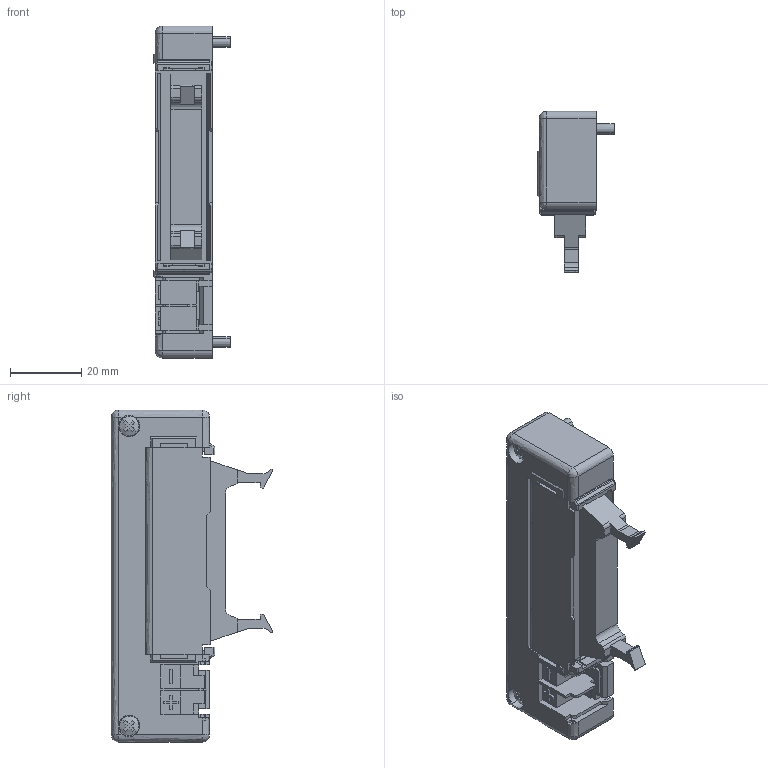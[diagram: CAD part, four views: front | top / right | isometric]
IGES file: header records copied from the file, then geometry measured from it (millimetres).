
Start section: ------------------------------------------------------------------------
Global section: file name: D:\ICADMX\tmp\trans3d_spg\CVICAD02.16560.FZX-F260_8882.igs; native system: spGate; preprocessor: ver12.6.6; author: Unknown; organization: Unknown; date: 200901.142602; units: millimetre
Bounding box: 21.4 x 45.2 x 93 mm (x, y, z)
Volume: 35226.8 mm3; surface area: 15058.4 mm2
Topology: 2 solids, 2 shells, 415 faces, 1206 edges, 778 vertices
Faces by surface type: bspline 415
